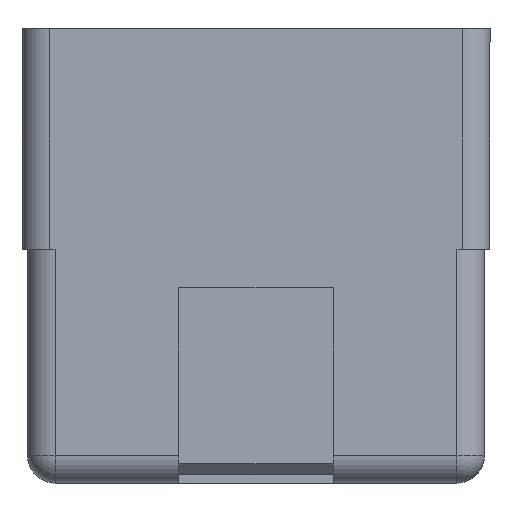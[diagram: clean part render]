
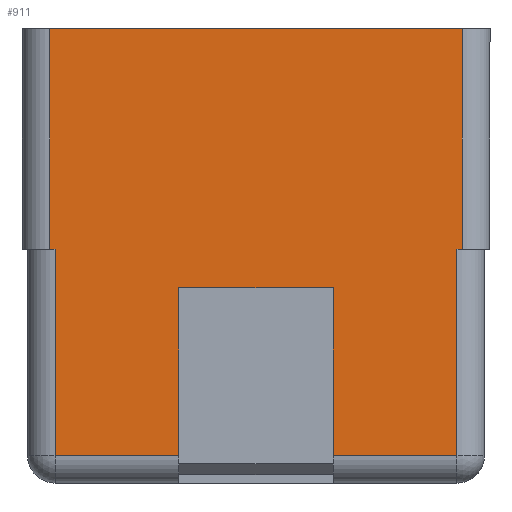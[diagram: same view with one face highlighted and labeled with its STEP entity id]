
A CAD part, front view. The second image highlights one B-rep face of the part: STEP entity #911.
In plain terms, the highlighted planar face has unit normal (0, -1, 0) as drawn and (-1, 0, 0) by its records, which use the part's own axes.
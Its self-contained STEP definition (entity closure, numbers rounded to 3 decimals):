
#637=CARTESIAN_POINT('',(-24.1,-4.0,-7.5));
#638=VERTEX_POINT('',#637);
#646=CARTESIAN_POINT('',(-24.1,-4.0,7.5));
#647=VERTEX_POINT('',#646);
#648=CARTESIAN_POINT('',(-24.1,-4.0,-7.5));
#649=DIRECTION('',(0.0,0.0,1.0));
#650=VECTOR('',#649,15.);
#651=LINE('',#648,#650);
#652=EDGE_CURVE('',#638,#647,#651,.T.);
#799=CARTESIAN_POINT('',(-24.1,-12.,-7.5));
#800=VERTEX_POINT('',#799);
#808=CARTESIAN_POINT('',(-24.1,-12.0,-7.5));
#809=DIRECTION('',(0.0,1.0,0.0));
#810=VECTOR('',#809,8.0);
#811=LINE('',#808,#810);
#812=EDGE_CURVE('',#800,#638,#811,.T.);
#824=CARTESIAN_POINT('',(-24.1,-20.5,0.0));
#825=DIRECTION('',(-1.0,0.0,0.0));
#826=DIRECTION('',(0.0,0.0,1.0));
#827=AXIS2_PLACEMENT_3D('',#824,#825,#826);
#828=PLANE('',#827);
#829=ORIENTED_EDGE('',*,*,#812,.F.);
#830=CARTESIAN_POINT('',(-24.1,-12.,-7.3));
#831=VERTEX_POINT('',#830);
#832=CARTESIAN_POINT('',(-24.1,-12.,-7.5));
#833=DIRECTION('',(0.0,0.0,1.0));
#834=VECTOR('',#833,0.2);
#835=LINE('',#832,#834);
#836=EDGE_CURVE('',#800,#831,#835,.T.);
#837=ORIENTED_EDGE('',*,*,#836,.T.);
#838=CARTESIAN_POINT('',(-24.1,-19.5,-7.3));
#839=VERTEX_POINT('',#838);
#840=CARTESIAN_POINT('',(-24.1,-19.5,-7.3));
#841=DIRECTION('',(0.0,1.0,0.0));
#842=VECTOR('',#841,7.5);
#843=LINE('',#840,#842);
#844=EDGE_CURVE('',#839,#831,#843,.T.);
#845=ORIENTED_EDGE('',*,*,#844,.F.);
#846=CARTESIAN_POINT('',(-24.1,-19.5,-2.8));
#847=VERTEX_POINT('',#846);
#848=CARTESIAN_POINT('',(-24.1,-19.5,-2.8));
#849=DIRECTION('',(0.0,0.0,-1.0));
#850=VECTOR('',#849,4.5);
#851=LINE('',#848,#850);
#852=EDGE_CURVE('',#847,#839,#851,.T.);
#853=ORIENTED_EDGE('',*,*,#852,.F.);
#854=CARTESIAN_POINT('',(-24.1,-13.4,-2.8));
#855=VERTEX_POINT('',#854);
#856=CARTESIAN_POINT('',(-24.1,-19.5,-2.8));
#857=DIRECTION('',(0.0,1.0,0.0));
#858=VECTOR('',#857,6.1);
#859=LINE('',#856,#858);
#860=EDGE_CURVE('',#847,#855,#859,.T.);
#861=ORIENTED_EDGE('',*,*,#860,.T.);
#862=CARTESIAN_POINT('',(-24.1,-13.4,2.8));
#863=VERTEX_POINT('',#862);
#864=CARTESIAN_POINT('',(-24.1,-13.4,-2.8));
#865=DIRECTION('',(0.0,0.0,1.0));
#866=VECTOR('',#865,5.6);
#867=LINE('',#864,#866);
#868=EDGE_CURVE('',#855,#863,#867,.T.);
#869=ORIENTED_EDGE('',*,*,#868,.T.);
#870=CARTESIAN_POINT('',(-24.1,-19.5,2.8));
#871=VERTEX_POINT('',#870);
#872=CARTESIAN_POINT('',(-24.1,-13.4,2.8));
#873=DIRECTION('',(0.0,-1.0,0.0));
#874=VECTOR('',#873,6.1);
#875=LINE('',#872,#874);
#876=EDGE_CURVE('',#863,#871,#875,.T.);
#877=ORIENTED_EDGE('',*,*,#876,.T.);
#878=CARTESIAN_POINT('',(-24.1,-19.5,7.3));
#879=VERTEX_POINT('',#878);
#880=CARTESIAN_POINT('',(-24.1,-19.5,7.3));
#881=DIRECTION('',(0.0,0.0,-1.0));
#882=VECTOR('',#881,4.5);
#883=LINE('',#880,#882);
#884=EDGE_CURVE('',#879,#871,#883,.T.);
#885=ORIENTED_EDGE('',*,*,#884,.F.);
#886=CARTESIAN_POINT('',(-24.1,-12.,7.3));
#887=VERTEX_POINT('',#886);
#888=CARTESIAN_POINT('',(-24.1,-12.,7.3));
#889=DIRECTION('',(0.0,-1.0,0.0));
#890=VECTOR('',#889,7.5);
#891=LINE('',#888,#890);
#892=EDGE_CURVE('',#887,#879,#891,.T.);
#893=ORIENTED_EDGE('',*,*,#892,.F.);
#894=CARTESIAN_POINT('',(-24.1,-12.,7.5));
#895=VERTEX_POINT('',#894);
#896=CARTESIAN_POINT('',(-24.1,-12.,7.3));
#897=DIRECTION('',(0.0,0.0,1.0));
#898=VECTOR('',#897,0.2);
#899=LINE('',#896,#898);
#900=EDGE_CURVE('',#887,#895,#899,.T.);
#901=ORIENTED_EDGE('',*,*,#900,.T.);
#902=CARTESIAN_POINT('',(-24.1,-4.0,7.5));
#903=DIRECTION('',(0.0,-1.0,0.0));
#904=VECTOR('',#903,8.0);
#905=LINE('',#902,#904);
#906=EDGE_CURVE('',#647,#895,#905,.T.);
#907=ORIENTED_EDGE('',*,*,#906,.F.);
#908=ORIENTED_EDGE('',*,*,#652,.F.);
#909=EDGE_LOOP('',(#829,#837,#845,#853,#861,#869,#877,#885,#893,#901,#907,#908));
#910=FACE_OUTER_BOUND('',#909,.T.);
#911=ADVANCED_FACE('',(#910),#828,.T.);
